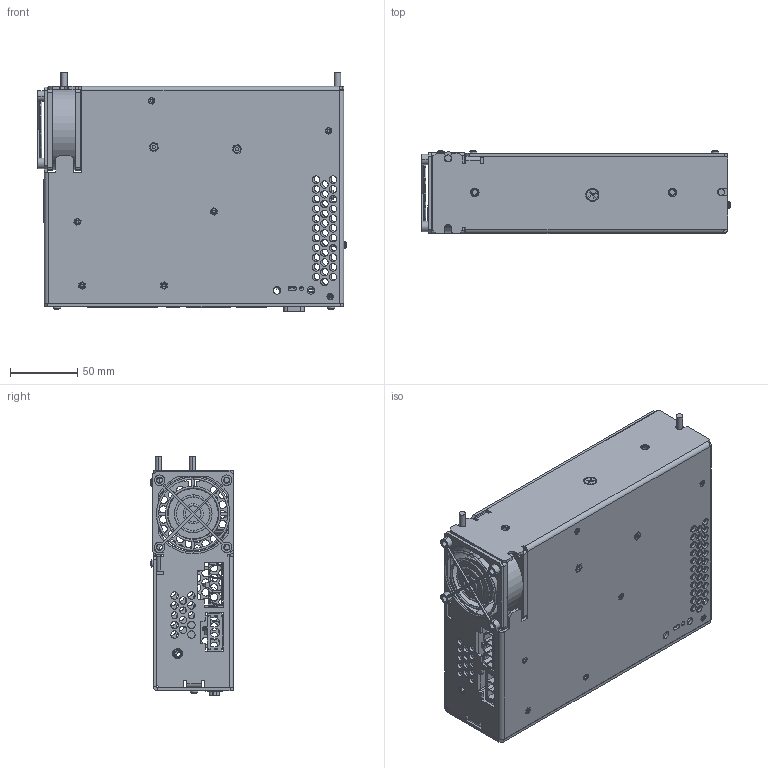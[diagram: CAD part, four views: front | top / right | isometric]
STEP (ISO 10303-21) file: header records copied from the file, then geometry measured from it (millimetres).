
FILE_DESCRIPTION (( 'STEP AP203' ), '1' );
FILE_NAME ('Amazon2a.STEP', '2011-08-09T13:00:34', ( ' ' ), ( ' ' ), 'SwSTEP 2.0', 'SolidWorks 2007', '' );
FILE_SCHEMA (( 'CONFIG_CONTROL_DESIGN' ));
Length unit declared in the file: inch
Products named in the file (1): Amazon2a
Bounding box: 230.15 x 61.74 x 178.17 mm (x, y, z)
Surface area: 256935.2 mm2 (no closed solid volume)
Topology: 0 solids, 96 shells, 1836 faces, 6224 edges, 4421 vertices
Faces by surface type: cylinder 981, plane 763, torus 36, cone 34, sphere 22
Entity records: 69795 total; most frequent: CARTESIAN_POINT 12516, DIRECTION 12473, ORIENTED_EDGE 10666, EDGE_CURVE 6224, AXIS2_PLACEMENT_3D 4428, VERTEX_POINT 4421, VECTOR 3617, LINE 3617
